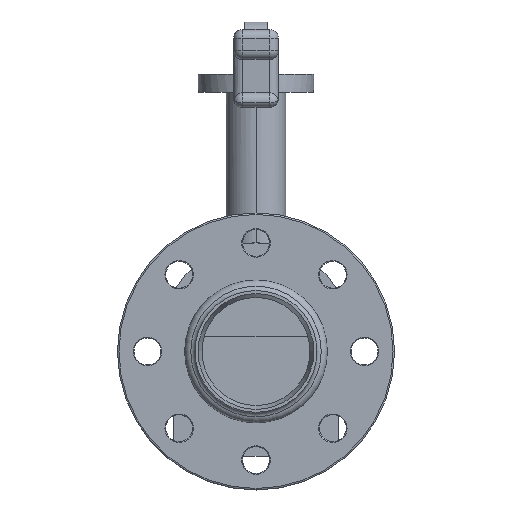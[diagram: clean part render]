
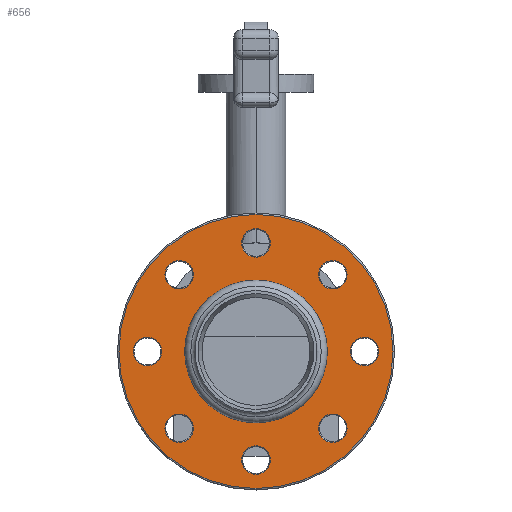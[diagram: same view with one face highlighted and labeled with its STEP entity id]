
A CAD part, front view. The second image highlights one B-rep face of the part: STEP entity #656.
In plain terms, the highlighted planar face has unit normal (0, -1, 0).
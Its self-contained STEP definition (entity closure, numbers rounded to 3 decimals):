
#344=FACE_BOUND('',#1023,.T.);
#345=FACE_BOUND('',#1024,.T.);
#346=FACE_BOUND('',#1025,.T.);
#347=FACE_BOUND('',#1026,.T.);
#348=FACE_BOUND('',#1027,.T.);
#349=FACE_BOUND('',#1028,.T.);
#350=FACE_BOUND('',#1029,.T.);
#351=FACE_BOUND('',#1030,.T.);
#352=FACE_BOUND('',#1031,.T.);
#353=FACE_BOUND('',#1032,.T.);
#656=ADVANCED_FACE('',(#344,#345,#346,#347,#348,#349,#350,#351,#352,#353),
#754,.F.);
#754=PLANE('',#2866);
#1023=EDGE_LOOP('',(#1781));
#1024=EDGE_LOOP('',(#1782));
#1025=EDGE_LOOP('',(#1783));
#1026=EDGE_LOOP('',(#1784));
#1027=EDGE_LOOP('',(#1785));
#1028=EDGE_LOOP('',(#1786));
#1029=EDGE_LOOP('',(#1787));
#1030=EDGE_LOOP('',(#1788));
#1031=EDGE_LOOP('',(#1789));
#1032=EDGE_LOOP('',(#1790));
#1781=ORIENTED_EDGE('',*,*,#2364,.T.);
#1782=ORIENTED_EDGE('',*,*,#2365,.T.);
#1783=ORIENTED_EDGE('',*,*,#2366,.T.);
#1784=ORIENTED_EDGE('',*,*,#2367,.T.);
#1785=ORIENTED_EDGE('',*,*,#2368,.T.);
#1786=ORIENTED_EDGE('',*,*,#2369,.T.);
#1787=ORIENTED_EDGE('',*,*,#2370,.T.);
#1788=ORIENTED_EDGE('',*,*,#2371,.T.);
#1789=ORIENTED_EDGE('',*,*,#2372,.F.);
#1790=ORIENTED_EDGE('',*,*,#2373,.T.);
#2077=VERTEX_POINT('',#4370);
#2078=VERTEX_POINT('',#4372);
#2079=VERTEX_POINT('',#4374);
#2080=VERTEX_POINT('',#4376);
#2081=VERTEX_POINT('',#4378);
#2082=VERTEX_POINT('',#4380);
#2083=VERTEX_POINT('',#4382);
#2084=VERTEX_POINT('',#4384);
#2085=VERTEX_POINT('',#4386);
#2086=VERTEX_POINT('',#4388);
#2364=EDGE_CURVE('',#2077,#2077,#2545,.T.);
#2365=EDGE_CURVE('',#2078,#2078,#2546,.T.);
#2366=EDGE_CURVE('',#2079,#2079,#2547,.T.);
#2367=EDGE_CURVE('',#2080,#2080,#2548,.T.);
#2368=EDGE_CURVE('',#2081,#2081,#2549,.T.);
#2369=EDGE_CURVE('',#2082,#2082,#2550,.T.);
#2370=EDGE_CURVE('',#2083,#2083,#2551,.T.);
#2371=EDGE_CURVE('',#2084,#2084,#2552,.T.);
#2372=EDGE_CURVE('',#2085,#2085,#2553,.T.);
#2373=EDGE_CURVE('',#2086,#2086,#2554,.T.);
#2545=CIRCLE('',#2856,9.5);
#2546=CIRCLE('',#2857,9.5);
#2547=CIRCLE('',#2858,9.5);
#2548=CIRCLE('',#2859,9.5);
#2549=CIRCLE('',#2860,9.5);
#2550=CIRCLE('',#2861,9.5);
#2551=CIRCLE('',#2862,9.5);
#2552=CIRCLE('',#2863,9.5);
#2553=CIRCLE('',#2864,38.05);
#2554=CIRCLE('',#2865,91.5);
#2856=AXIS2_PLACEMENT_3D('',#4369,#3562,#3563);
#2857=AXIS2_PLACEMENT_3D('',#4371,#3564,#3565);
#2858=AXIS2_PLACEMENT_3D('',#4373,#3566,#3567);
#2859=AXIS2_PLACEMENT_3D('',#4375,#3568,#3569);
#2860=AXIS2_PLACEMENT_3D('',#4377,#3570,#3571);
#2861=AXIS2_PLACEMENT_3D('',#4379,#3572,#3573);
#2862=AXIS2_PLACEMENT_3D('',#4381,#3574,#3575);
#2863=AXIS2_PLACEMENT_3D('',#4383,#3576,#3577);
#2864=AXIS2_PLACEMENT_3D('',#4385,#3578,#3579);
#2865=AXIS2_PLACEMENT_3D('',#4387,#3580,#3581);
#2866=AXIS2_PLACEMENT_3D('',#4389,#3582,#3583);
#3562=DIRECTION('',(0.,1.,0.));
#3563=DIRECTION('',(0.,0.,1.));
#3564=DIRECTION('',(0.,1.,0.));
#3565=DIRECTION('',(0.,0.,1.));
#3566=DIRECTION('',(0.,1.,0.));
#3567=DIRECTION('',(0.,0.,1.));
#3568=DIRECTION('',(0.,1.,0.));
#3569=DIRECTION('',(0.,0.,1.));
#3570=DIRECTION('',(0.,1.,0.));
#3571=DIRECTION('',(0.,0.,1.));
#3572=DIRECTION('',(0.,1.,0.));
#3573=DIRECTION('',(0.,0.,1.));
#3574=DIRECTION('',(0.,1.,0.));
#3575=DIRECTION('',(0.,0.,1.));
#3576=DIRECTION('',(0.,1.,0.));
#3577=DIRECTION('',(0.,0.,1.));
#3578=DIRECTION('',(0.,-1.,0.));
#3579=DIRECTION('',(0.,0.,-1.));
#3580=DIRECTION('',(0.,-1.,0.));
#3581=DIRECTION('',(0.,0.,-1.));
#3582=DIRECTION('',(0.,1.,0.));
#3583=DIRECTION('',(0.,0.,1.));
#4369=CARTESIAN_POINT('',(-72.5,-141.228,-10.));
#4370=CARTESIAN_POINT('',(-72.5,-141.228,-0.5));
#4371=CARTESIAN_POINT('',(-51.265,-141.228,41.265));
#4372=CARTESIAN_POINT('',(-51.265,-141.228,50.765));
#4373=CARTESIAN_POINT('',(0.,-141.228,62.5));
#4374=CARTESIAN_POINT('',(0.,-141.228,72.));
#4375=CARTESIAN_POINT('',(51.265,-141.228,41.265));
#4376=CARTESIAN_POINT('',(51.265,-141.228,50.765));
#4377=CARTESIAN_POINT('',(-51.265,-141.228,-61.265));
#4378=CARTESIAN_POINT('',(-51.265,-141.228,-51.765));
#4379=CARTESIAN_POINT('',(0.,-141.228,-82.5));
#4380=CARTESIAN_POINT('',(0.,-141.228,-73.));
#4381=CARTESIAN_POINT('',(51.265,-141.228,-61.265));
#4382=CARTESIAN_POINT('',(51.265,-141.228,-51.765));
#4383=CARTESIAN_POINT('',(72.5,-141.228,-10.));
#4384=CARTESIAN_POINT('',(72.5,-141.228,-0.5));
#4385=CARTESIAN_POINT('',(0.,-141.228,-10.));
#4386=CARTESIAN_POINT('',(0.,-141.228,-48.05));
#4387=CARTESIAN_POINT('',(0.,-141.228,-10.));
#4388=CARTESIAN_POINT('',(0.,-141.228,-101.5));
#4389=CARTESIAN_POINT('',(-91.5,-141.228,-10.));
